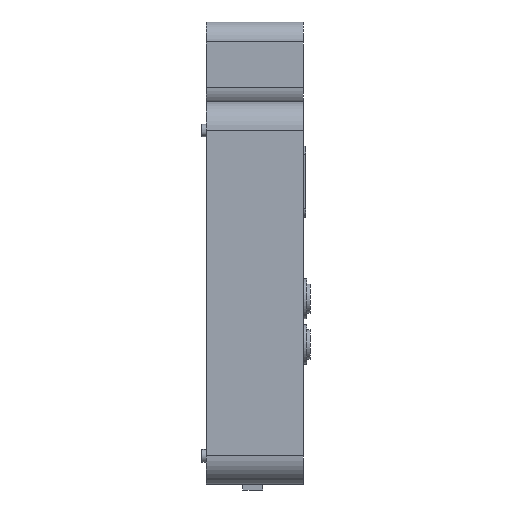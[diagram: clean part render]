
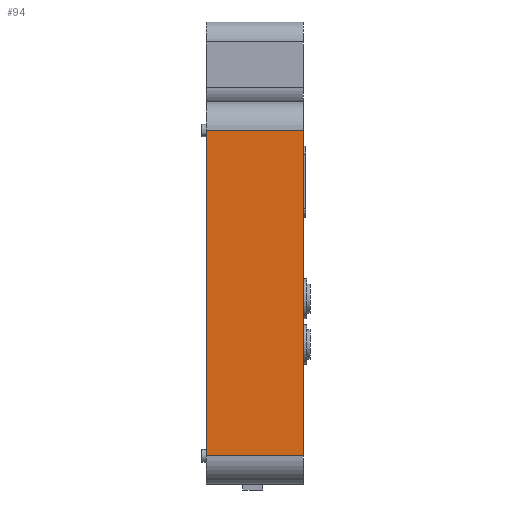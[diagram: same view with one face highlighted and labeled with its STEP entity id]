
A CAD part, left-side view. The second image highlights one B-rep face of the part: STEP entity #94.
In plain terms, the highlighted planar face has unit normal (-1, 0, 0).
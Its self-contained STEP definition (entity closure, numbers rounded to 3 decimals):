
#94 = ADVANCED_FACE('',(#95),#109,.T.);
#95 = FACE_BOUND('',#96,.T.);
#96 = EDGE_LOOP('',(#97,#132,#160,#188));
#97 = ORIENTED_EDGE('',*,*,#98,.T.);
#98 = EDGE_CURVE('',#99,#101,#103,.T.);
#99 = VERTEX_POINT('',#100);
#100 = CARTESIAN_POINT('',(-50.,17.,10.));
#101 = VERTEX_POINT('',#102);
#102 = CARTESIAN_POINT('',(-50.,-17.,10.));
#103 = SURFACE_CURVE('',#104,(#108,#120),.PCURVE_S1.);
#104 = LINE('',#105,#106);
#105 = CARTESIAN_POINT('',(-50.,17.,10.));
#106 = VECTOR('',#107,1.);
#107 = DIRECTION('',(0.,-1.,0.));
#108 = PCURVE('',#109,#114);
#109 = PLANE('',#110);
#110 = AXIS2_PLACEMENT_3D('',#111,#112,#113);
#111 = CARTESIAN_POINT('',(-50.,17.,10.));
#112 = DIRECTION('',(-1.,0.,0.));
#113 = DIRECTION('',(0.,0.,1.));
#114 = DEFINITIONAL_REPRESENTATION('',(#115),#119);
#115 = LINE('',#116,#117);
#116 = CARTESIAN_POINT('',(0.,0.));
#117 = VECTOR('',#118,1.);
#118 = DIRECTION('',(0.,-1.));
#119 = ( GEOMETRIC_REPRESENTATION_CONTEXT(2) 
PARAMETRIC_REPRESENTATION_CONTEXT() REPRESENTATION_CONTEXT('2D SPACE',''
  ) );
#120 = PCURVE('',#121,#126);
#121 = CYLINDRICAL_SURFACE('',#122,10.);
#122 = AXIS2_PLACEMENT_3D('',#123,#124,#125);
#123 = CARTESIAN_POINT('',(-40.,17.,10.));
#124 = DIRECTION('',(0.,1.,0.));
#125 = DIRECTION('',(1.,0.,0.));
#126 = DEFINITIONAL_REPRESENTATION('',(#127),#131);
#127 = LINE('',#128,#129);
#128 = CARTESIAN_POINT('',(-3.142,0.));
#129 = VECTOR('',#130,1.);
#130 = DIRECTION('',(-0.,-1.));
#131 = ( GEOMETRIC_REPRESENTATION_CONTEXT(2) 
PARAMETRIC_REPRESENTATION_CONTEXT() REPRESENTATION_CONTEXT('2D SPACE',''
  ) );
#132 = ORIENTED_EDGE('',*,*,#133,.T.);
#133 = EDGE_CURVE('',#101,#134,#136,.T.);
#134 = VERTEX_POINT('',#135);
#135 = CARTESIAN_POINT('',(-50.,-17.,124.));
#136 = SURFACE_CURVE('',#137,(#141,#148),.PCURVE_S1.);
#137 = LINE('',#138,#139);
#138 = CARTESIAN_POINT('',(-50.,-17.,67.));
#139 = VECTOR('',#140,1.);
#140 = DIRECTION('',(0.,0.,1.));
#141 = PCURVE('',#109,#142);
#142 = DEFINITIONAL_REPRESENTATION('',(#143),#147);
#143 = LINE('',#144,#145);
#144 = CARTESIAN_POINT('',(57.,-34.));
#145 = VECTOR('',#146,1.);
#146 = DIRECTION('',(1.,0.));
#147 = ( GEOMETRIC_REPRESENTATION_CONTEXT(2) 
PARAMETRIC_REPRESENTATION_CONTEXT() REPRESENTATION_CONTEXT('2D SPACE',''
  ) );
#148 = PCURVE('',#149,#154);
#149 = PLANE('',#150);
#150 = AXIS2_PLACEMENT_3D('',#151,#152,#153);
#151 = CARTESIAN_POINT('',(0.,-17.,67.));
#152 = DIRECTION('',(0.,-1.,0.));
#153 = DIRECTION('',(1.,0.,0.));
#154 = DEFINITIONAL_REPRESENTATION('',(#155),#159);
#155 = LINE('',#156,#157);
#156 = CARTESIAN_POINT('',(-50.,0.));
#157 = VECTOR('',#158,1.);
#158 = DIRECTION('',(0.,1.));
#159 = ( GEOMETRIC_REPRESENTATION_CONTEXT(2) 
PARAMETRIC_REPRESENTATION_CONTEXT() REPRESENTATION_CONTEXT('2D SPACE',''
  ) );
#160 = ORIENTED_EDGE('',*,*,#161,.F.);
#161 = EDGE_CURVE('',#162,#134,#164,.T.);
#162 = VERTEX_POINT('',#163);
#163 = CARTESIAN_POINT('',(-50.,17.,124.));
#164 = SURFACE_CURVE('',#165,(#169,#176),.PCURVE_S1.);
#165 = LINE('',#166,#167);
#166 = CARTESIAN_POINT('',(-50.,17.,124.));
#167 = VECTOR('',#168,1.);
#168 = DIRECTION('',(0.,-1.,0.));
#169 = PCURVE('',#109,#170);
#170 = DEFINITIONAL_REPRESENTATION('',(#171),#175);
#171 = LINE('',#172,#173);
#172 = CARTESIAN_POINT('',(114.,0.));
#173 = VECTOR('',#174,1.);
#174 = DIRECTION('',(0.,-1.));
#175 = ( GEOMETRIC_REPRESENTATION_CONTEXT(2) 
PARAMETRIC_REPRESENTATION_CONTEXT() REPRESENTATION_CONTEXT('2D SPACE',''
  ) );
#176 = PCURVE('',#177,#182);
#177 = CYLINDRICAL_SURFACE('',#178,10.);
#178 = AXIS2_PLACEMENT_3D('',#179,#180,#181);
#179 = CARTESIAN_POINT('',(-40.,17.,124.));
#180 = DIRECTION('',(0.,1.,0.));
#181 = DIRECTION('',(1.,0.,0.));
#182 = DEFINITIONAL_REPRESENTATION('',(#183),#187);
#183 = LINE('',#184,#185);
#184 = CARTESIAN_POINT('',(-3.142,0.));
#185 = VECTOR('',#186,1.);
#186 = DIRECTION('',(-0.,-1.));
#187 = ( GEOMETRIC_REPRESENTATION_CONTEXT(2) 
PARAMETRIC_REPRESENTATION_CONTEXT() REPRESENTATION_CONTEXT('2D SPACE',''
  ) );
#188 = ORIENTED_EDGE('',*,*,#189,.F.);
#189 = EDGE_CURVE('',#99,#162,#190,.T.);
#190 = SURFACE_CURVE('',#191,(#195,#202),.PCURVE_S1.);
#191 = LINE('',#192,#193);
#192 = CARTESIAN_POINT('',(-50.,17.,67.));
#193 = VECTOR('',#194,1.);
#194 = DIRECTION('',(0.,0.,1.));
#195 = PCURVE('',#109,#196);
#196 = DEFINITIONAL_REPRESENTATION('',(#197),#201);
#197 = LINE('',#198,#199);
#198 = CARTESIAN_POINT('',(57.,0.));
#199 = VECTOR('',#200,1.);
#200 = DIRECTION('',(1.,0.));
#201 = ( GEOMETRIC_REPRESENTATION_CONTEXT(2) 
PARAMETRIC_REPRESENTATION_CONTEXT() REPRESENTATION_CONTEXT('2D SPACE',''
  ) );
#202 = PCURVE('',#203,#208);
#203 = PLANE('',#204);
#204 = AXIS2_PLACEMENT_3D('',#205,#206,#207);
#205 = CARTESIAN_POINT('',(0.,17.,67.));
#206 = DIRECTION('',(0.,-1.,0.));
#207 = DIRECTION('',(1.,0.,0.));
#208 = DEFINITIONAL_REPRESENTATION('',(#209),#213);
#209 = LINE('',#210,#211);
#210 = CARTESIAN_POINT('',(-50.,0.));
#211 = VECTOR('',#212,1.);
#212 = DIRECTION('',(0.,1.));
#213 = ( GEOMETRIC_REPRESENTATION_CONTEXT(2) 
PARAMETRIC_REPRESENTATION_CONTEXT() REPRESENTATION_CONTEXT('2D SPACE',''
  ) );
